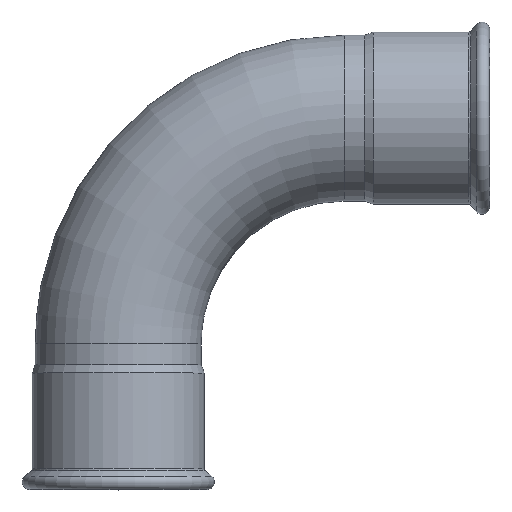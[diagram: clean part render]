
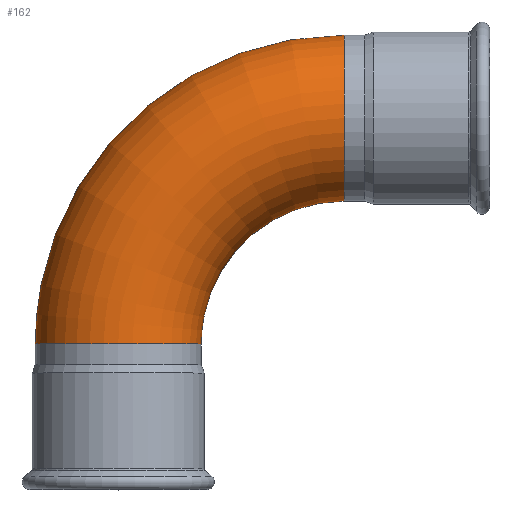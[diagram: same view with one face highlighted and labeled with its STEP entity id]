
A CAD part, top view. The second image highlights one B-rep face of the part: STEP entity #162.
In plain terms, the highlighted toroidal (fillet/blend) face has major radius 229 mm and minor radius 84.15 mm.
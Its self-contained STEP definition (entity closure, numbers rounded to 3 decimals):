
#135=CARTESIAN_POINT('',(229.0,0.0,0.0));
#136=DIRECTION('',(0.0,0.0,1.0));
#137=DIRECTION('',(1.0,0.0,0.0));
#138=AXIS2_PLACEMENT_3D('',#135,#136,#137);
#139=TOROIDAL_SURFACE('',#138,229.,84.15);
#140=CARTESIAN_POINT('',(-84.15,0.,0.));
#141=VERTEX_POINT('',#140);
#142=CARTESIAN_POINT('',(0.,0.0,0.0));
#143=DIRECTION('',(0.0,1.0,0.0));
#144=DIRECTION('',(1.0,0.0,0.0));
#145=AXIS2_PLACEMENT_3D('',#142,#143,#144);
#146=CIRCLE('',#145,84.15);
#147=EDGE_CURVE('',#141,#141,#146,.T.);
#148=ORIENTED_EDGE('',*,*,#147,.T.);
#149=EDGE_LOOP('',(#148));
#150=FACE_OUTER_BOUND('',#149,.T.);
#151=CARTESIAN_POINT('',(229.0,313.15,0.));
#152=VERTEX_POINT('',#151);
#153=CARTESIAN_POINT('',(229.0,229.,0.0));
#154=DIRECTION('',(-1.0,0.0,0.0));
#155=DIRECTION('',(0.0,-1.0,0.0));
#156=AXIS2_PLACEMENT_3D('',#153,#154,#155);
#157=CIRCLE('',#156,84.15);
#158=EDGE_CURVE('',#152,#152,#157,.T.);
#159=ORIENTED_EDGE('',*,*,#158,.T.);
#160=EDGE_LOOP('',(#159));
#161=FACE_BOUND('',#160,.T.);
#162=ADVANCED_FACE('',(#150,#161),#139,.T.);
